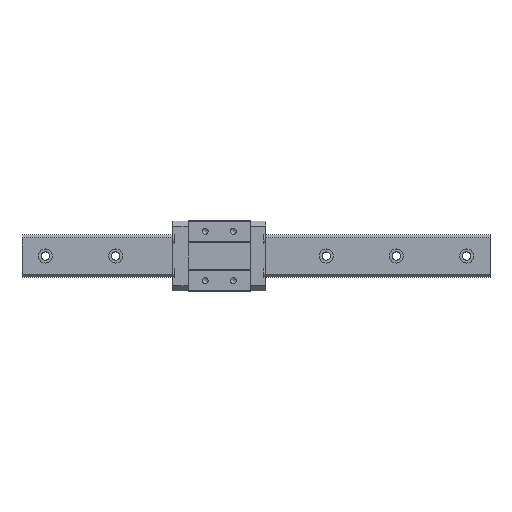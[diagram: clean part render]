
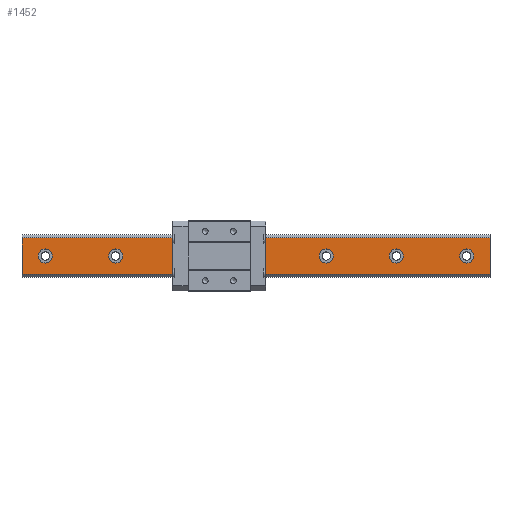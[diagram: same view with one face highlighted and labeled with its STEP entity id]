
A CAD part, top view. The second image highlights one B-rep face of the part: STEP entity #1452.
In plain terms, the highlighted planar face has unit normal (0, 0, 1).
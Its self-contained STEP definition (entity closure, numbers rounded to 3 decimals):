
#137=CARTESIAN_POINT('',(193.0,0.,7.5));
#138=VERTEX_POINT('',#137);
#139=CARTESIAN_POINT('',(190.0,0.,7.5));
#140=DIRECTION('',(0.0,0.0,-1.0));
#141=DIRECTION('',(1.0,0.0,0.0));
#142=AXIS2_PLACEMENT_3D('',#139,#140,#141);
#143=CIRCLE('',#142,3.);
#144=EDGE_CURVE('',#138,#138,#143,.T.);
#247=CARTESIAN_POINT('',(163.0,0.,7.5));
#248=VERTEX_POINT('',#247);
#249=CARTESIAN_POINT('',(160.0,0.,7.5));
#250=DIRECTION('',(0.0,0.0,-1.0));
#251=DIRECTION('',(1.0,0.0,0.0));
#252=AXIS2_PLACEMENT_3D('',#249,#250,#251);
#253=CIRCLE('',#252,3.);
#254=EDGE_CURVE('',#248,#248,#253,.T.);
#357=CARTESIAN_POINT('',(133.0,0.,7.5));
#358=VERTEX_POINT('',#357);
#359=CARTESIAN_POINT('',(130.0,0.,7.5));
#360=DIRECTION('',(0.0,0.0,-1.0));
#361=DIRECTION('',(1.0,0.0,0.0));
#362=AXIS2_PLACEMENT_3D('',#359,#360,#361);
#363=CIRCLE('',#362,3.);
#364=EDGE_CURVE('',#358,#358,#363,.T.);
#467=CARTESIAN_POINT('',(103.0,0.,7.5));
#468=VERTEX_POINT('',#467);
#469=CARTESIAN_POINT('',(100.0,0.,7.5));
#470=DIRECTION('',(0.0,0.0,-1.0));
#471=DIRECTION('',(1.0,0.0,0.0));
#472=AXIS2_PLACEMENT_3D('',#469,#470,#471);
#473=CIRCLE('',#472,3.);
#474=EDGE_CURVE('',#468,#468,#473,.T.);
#577=CARTESIAN_POINT('',(73.0,0.,7.5));
#578=VERTEX_POINT('',#577);
#579=CARTESIAN_POINT('',(70.0,0.,7.5));
#580=DIRECTION('',(0.0,0.0,-1.0));
#581=DIRECTION('',(1.0,0.0,0.0));
#582=AXIS2_PLACEMENT_3D('',#579,#580,#581);
#583=CIRCLE('',#582,3.);
#584=EDGE_CURVE('',#578,#578,#583,.T.);
#687=CARTESIAN_POINT('',(43.0,0.,7.5));
#688=VERTEX_POINT('',#687);
#689=CARTESIAN_POINT('',(40.0,0.,7.5));
#690=DIRECTION('',(0.0,0.0,-1.0));
#691=DIRECTION('',(1.0,0.0,0.0));
#692=AXIS2_PLACEMENT_3D('',#689,#690,#691);
#693=CIRCLE('',#692,3.);
#694=EDGE_CURVE('',#688,#688,#693,.T.);
#797=CARTESIAN_POINT('',(13.0,0.,7.5));
#798=VERTEX_POINT('',#797);
#799=CARTESIAN_POINT('',(10.0,0.,7.5));
#800=DIRECTION('',(0.0,0.0,-1.0));
#801=DIRECTION('',(1.0,0.0,0.0));
#802=AXIS2_PLACEMENT_3D('',#799,#800,#801);
#803=CIRCLE('',#802,3.);
#804=EDGE_CURVE('',#798,#798,#803,.T.);
#1375=CARTESIAN_POINT('',(200.0,-7.7,7.5));
#1376=VERTEX_POINT('',#1375);
#1383=CARTESIAN_POINT('',(0.0,-7.7,7.5));
#1384=VERTEX_POINT('',#1383);
#1385=CARTESIAN_POINT('',(0.0,-7.7,7.5));
#1386=DIRECTION('',(1.0,0.0,0.0));
#1387=VECTOR('',#1386,200.0);
#1388=LINE('',#1385,#1387);
#1389=EDGE_CURVE('',#1384,#1376,#1388,.T.);
#1401=CARTESIAN_POINT('',(0.0,-7.7,7.5));
#1402=DIRECTION('',(0.0,0.0,1.0));
#1403=DIRECTION('',(1.0,0.0,0.0));
#1404=AXIS2_PLACEMENT_3D('',#1401,#1402,#1403);
#1405=PLANE('',#1404);
#1406=CARTESIAN_POINT('',(200.0,7.7,7.5));
#1407=VERTEX_POINT('',#1406);
#1408=CARTESIAN_POINT('',(200.0,-7.7,7.5));
#1409=DIRECTION('',(0.0,1.0,0.0));
#1410=VECTOR('',#1409,15.4);
#1411=LINE('',#1408,#1410);
#1412=EDGE_CURVE('',#1376,#1407,#1411,.T.);
#1413=ORIENTED_EDGE('',*,*,#1412,.T.);
#1414=CARTESIAN_POINT('',(0.0,7.7,7.5));
#1415=VERTEX_POINT('',#1414);
#1416=CARTESIAN_POINT('',(0.0,7.7,7.5));
#1417=DIRECTION('',(1.0,0.0,0.0));
#1418=VECTOR('',#1417,200.0);
#1419=LINE('',#1416,#1418);
#1420=EDGE_CURVE('',#1415,#1407,#1419,.T.);
#1421=ORIENTED_EDGE('',*,*,#1420,.F.);
#1422=CARTESIAN_POINT('',(0.0,-7.7,7.5));
#1423=DIRECTION('',(0.0,1.0,0.0));
#1424=VECTOR('',#1423,15.4);
#1425=LINE('',#1422,#1424);
#1426=EDGE_CURVE('',#1384,#1415,#1425,.T.);
#1427=ORIENTED_EDGE('',*,*,#1426,.F.);
#1428=ORIENTED_EDGE('',*,*,#1389,.T.);
#1429=EDGE_LOOP('',(#1413,#1421,#1427,#1428));
#1430=FACE_OUTER_BOUND('',#1429,.T.);
#1431=ORIENTED_EDGE('',*,*,#144,.T.);
#1432=EDGE_LOOP('',(#1431));
#1433=FACE_BOUND('',#1432,.T.);
#1434=ORIENTED_EDGE('',*,*,#254,.T.);
#1435=EDGE_LOOP('',(#1434));
#1436=FACE_BOUND('',#1435,.T.);
#1437=ORIENTED_EDGE('',*,*,#364,.T.);
#1438=EDGE_LOOP('',(#1437));
#1439=FACE_BOUND('',#1438,.T.);
#1440=ORIENTED_EDGE('',*,*,#474,.T.);
#1441=EDGE_LOOP('',(#1440));
#1442=FACE_BOUND('',#1441,.T.);
#1443=ORIENTED_EDGE('',*,*,#584,.T.);
#1444=EDGE_LOOP('',(#1443));
#1445=FACE_BOUND('',#1444,.T.);
#1446=ORIENTED_EDGE('',*,*,#694,.T.);
#1447=EDGE_LOOP('',(#1446));
#1448=FACE_BOUND('',#1447,.T.);
#1449=ORIENTED_EDGE('',*,*,#804,.T.);
#1450=EDGE_LOOP('',(#1449));
#1451=FACE_BOUND('',#1450,.T.);
#1452=ADVANCED_FACE('',(#1430,#1433,#1436,#1439,#1442,#1445,#1448,#1451),#1405,.T.);
